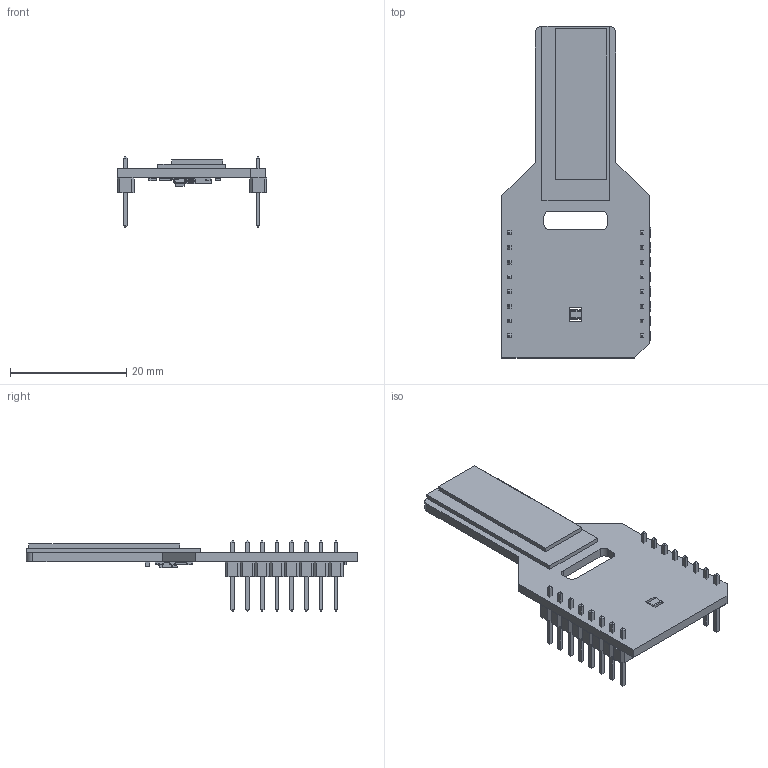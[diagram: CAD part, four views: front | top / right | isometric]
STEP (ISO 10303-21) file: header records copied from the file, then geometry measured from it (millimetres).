
FILE_DESCRIPTION(('Open CASCADE Model'),'2;1');
FILE_NAME('Open CASCADE Shape Model','2026-01-29T15:05:54',('Author'),( 'Open CASCADE'),'Open CASCADE STEP processor 6.8','Open CASCADE 6.8' ,'Unknown');
FILE_SCHEMA(('AUTOMOTIVE_DESIGN { 1 0 10303 214 1 1 1 1 }'));
Length unit declared in the file: millimetre
Products named in the file (41): PCB; Board; R4; User_Library-R_0603; C2; User_Library-SMD_CAPACITOR0402; C3; MBD1; Header_1x8; Free-Models; 1240637040; User_Library-PinHeaderX5-1_PinHeaderX5_Body_1; User_Library-PinHeaderX5-1_PinHeaderX5_Pins_1; C4; User_Library-SMD_CAPACITOR0603; C5; C6; C7; R5; User_Library-R_0805; CN1; WFH-2000105; FH26W_芯数展開ベースモデル_15芯; U2; User_Library-SOT23-6-2; U1; 1116290920; Extruded; C1; LD1; led_1206_green; R1; R3; User_Library-R_0402; R2; -1375491736; -1375491872
Assembly tree (49 placements, depth 7):
  PCB
    Board
    R4
      User_Library-R_0603
    C2
      User_Library-SMD_CAPACITOR0402
    C3
      User_Library-SMD_CAPACITOR0402
    MBD1
      Header_1x8  x2
        PCB
          Free-Models
            1240637040  x2
              User_Library-PinHeaderX5-1_PinHeaderX5_Body_1
              User_Library-PinHeaderX5-1_PinHeaderX5_Pins_1
    C4
      User_Library-SMD_CAPACITOR0603
    C5
      User_Library-SMD_CAPACITOR0402
    C6
      User_Library-SMD_CAPACITOR0402
    C7
      User_Library-SMD_CAPACITOR0402
    R5
      User_Library-R_0805
    CN1
      WFH-2000105
        FH26W_芯数展開ベースモデル_15芯
    U2
      User_Library-SOT23-6-2
    U1
      1116290920
        Extruded
    C1
      User_Library-SMD_CAPACITOR0402
    LD1
      led_1206_green
    R1
      User_Library-R_0805
    R3
      User_Library-R_0402
    R2
      User_Library-R_0402
    Free-Models
      -1375491736
        Extruded
      -1375491872
        Extruded
Bounding box: 25.78 x 57.2 x 12.19 mm (x, y, z)
Volume: 2693 mm3; surface area: 5322.6 mm2
Topology: 42 solids, 42 shells, 2085 faces, 5505 edges, 3492 vertices
Faces by surface type: plane 1596, cylinder 246, bspline 181, sphere 62
Entity records: 53207 total; most frequent: CARTESIAN_POINT 14780, ORIENTED_EDGE 7404, DIRECTION 6401, EDGE_CURVE 3702, LINE 3135, VECTOR 3135, VERTEX_POINT 2410, AXIS2_PLACEMENT_3D 1633
